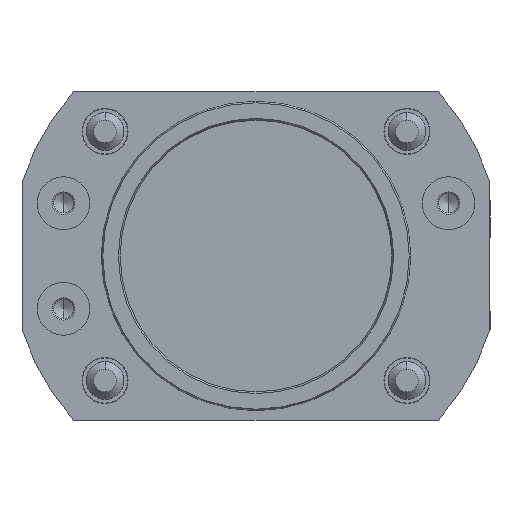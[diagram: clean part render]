
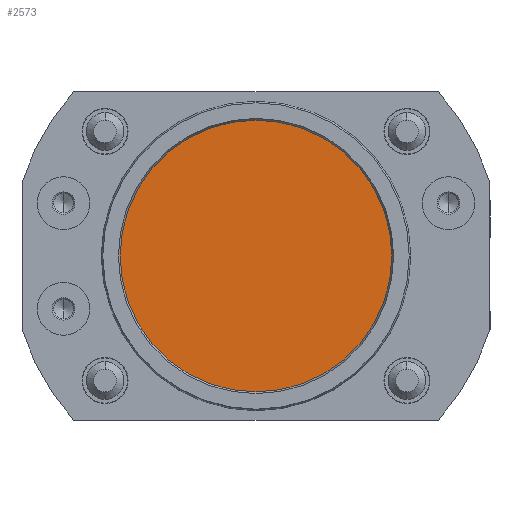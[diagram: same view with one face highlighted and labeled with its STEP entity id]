
A CAD part, front view. The second image highlights one B-rep face of the part: STEP entity #2573.
In plain terms, the highlighted planar face has unit normal (0, -1, 0).
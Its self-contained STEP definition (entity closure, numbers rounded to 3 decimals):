
#2466 = EDGE_LOOP ( 'NONE', ( #2520, #2566 ) ) ;
#2515 = EDGE_CURVE ( 'NONE', #2684, #2686, #6320, .T. ) ;
#2520 = ORIENTED_EDGE ( 'NONE', *, *, #2515, .F. ) ;
#2566 = ORIENTED_EDGE ( 'NONE', *, *, #2719, .F. ) ;
#2573 = ADVANCED_FACE ( 'NONE', ( #6404 ), #6397, .T. ) ;
#2684 = VERTEX_POINT ( 'NONE', #6699 ) ;
#2686 = VERTEX_POINT ( 'NONE', #6694 ) ;
#2719 = EDGE_CURVE ( 'NONE', #2686, #2684, #6762, .T. ) ;
#6316 = DIRECTION ( 'NONE',  ( 0., 0., 1. ) ) ;
#6317 = DIRECTION ( 'NONE',  ( 0., 1., 0. ) ) ;
#6318 = CARTESIAN_POINT ( 'NONE',  ( 0., 3., 0. ) ) ;
#6319 = AXIS2_PLACEMENT_3D ( 'NONE', #6318, #6317, #6316 ) ;
#6320 = CIRCLE ( 'NONE', #6319, 18. ) ;
#6397 = PLANE ( 'NONE',  #6410 ) ;
#6404 = FACE_OUTER_BOUND ( 'NONE', #2466, .T. ) ;
#6410 = AXIS2_PLACEMENT_3D ( 'NONE', #6411, #6462, #6461 ) ;
#6411 = CARTESIAN_POINT ( 'NONE',  ( 0., 3., 0. ) ) ;
#6461 = DIRECTION ( 'NONE',  ( 0., 0., -1. ) ) ;
#6462 = DIRECTION ( 'NONE',  ( 0., -1., 0. ) ) ;
#6694 = CARTESIAN_POINT ( 'NONE',  ( 0., 3., -18. ) ) ;
#6699 = CARTESIAN_POINT ( 'NONE',  ( 0., 3., 18. ) ) ;
#6734 = DIRECTION ( 'NONE',  ( 0., 0., 1. ) ) ;
#6735 = DIRECTION ( 'NONE',  ( 0., 1., 0. ) ) ;
#6759 = AXIS2_PLACEMENT_3D ( 'NONE', #6767, #6735, #6734 ) ;
#6762 = CIRCLE ( 'NONE', #6759, 18. ) ;
#6767 = CARTESIAN_POINT ( 'NONE',  ( 0., 3., 0. ) ) ;
